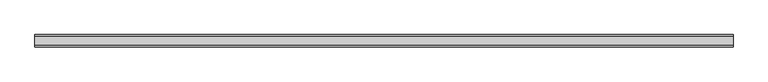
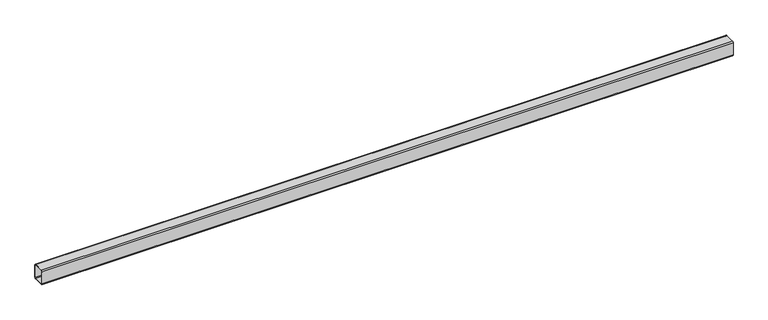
"""IFC4 building model written with IfcOpenShell, lengths in millimetres: beam geometry, Труба прямоугольного сечения (ТУ 67-2287-80) Балки : труба200x160x8."""

from ifc_helpers import new_model, si_unit, point, frame, frame_2d, origin, place, context, project, spatial, polyline, circle_curve, trimmed, segment, composite_curve, outline, extrude, source, transform, mapped, element, save


def beam_96b021a9(model_context):
    return source(origin(), model_context, "Body", "SweptSolid", [
        extrude(outline(composite_curve([segment(polyline([(-64.0, 100.0), (64.0, 100.0)]), True, "CONTINUOUS"), segment(trimmed(circle_curve(frame_2d((64.0, 84.0)), 16.0), [point((64.0, 100.0))], [point((80.0, 84.0))], False, "CARTESIAN"), True, "CONTINUOUS"), segment(polyline([(80.0, 84.0), (80.0, -84.0)]), True, "CONTINUOUS"), segment(trimmed(circle_curve(frame_2d((64.0, -84.0)), 16.0), [point((80.0, -84.0))], [point((64.0, -100.0))], False, "CARTESIAN"), True, "CONTINUOUS"), segment(polyline([(64.0, -100.0), (-64.0, -100.0)]), True, "CONTINUOUS"), segment(trimmed(circle_curve(frame_2d((-64.0, -84.0)), 16.0), [point((-64.0, -100.0))], [point((-80.0, -84.0))], False, "CARTESIAN"), True, "CONTINUOUS"), segment(polyline([(-80.0, -84.0), (-80.0, 84.0)]), True, "CONTINUOUS"), segment(trimmed(circle_curve(frame_2d((-64.0, 84.0)), 16.0), [point((-80.0, 84.0))], [point((-64.0, 100.0))], False, "CARTESIAN"), True, "CONTINUOUS")], self_intersect=False), holes=[composite_curve([segment(trimmed(circle_curve(frame_2d((-64.0, 84.0)), 8.0), [point((-64.0, 92.0))], [point((-72.0, 84.0))], True, "CARTESIAN"), True, "CONTINUOUS"), segment(polyline([(-72.0, 84.0), (-72.0, -84.0)]), True, "CONTINUOUS"), segment(trimmed(circle_curve(frame_2d((-64.0, -84.0)), 8.0), [point((-72.0, -84.0))], [point((-64.0, -92.0))], True, "CARTESIAN"), True, "CONTINUOUS"), segment(polyline([(-64.0, -92.0), (64.0, -92.0)]), True, "CONTINUOUS"), segment(trimmed(circle_curve(frame_2d((64.0, -84.0)), 8.0), [point((64.0, -92.0))], [point((72.0, -84.0))], True, "CARTESIAN"), True, "CONTINUOUS"), segment(polyline([(72.0, -84.0), (72.0, 84.0)]), True, "CONTINUOUS"), segment(trimmed(circle_curve(frame_2d((64.0, 84.0)), 8.0), [point((72.0, 84.0))], [point((64.0, 92.0))], True, "CARTESIAN"), True, "CONTINUOUS"), segment(polyline([(64.0, 92.0), (-64.0, 92.0)]), True, "CONTINUOUS")], self_intersect=False)]), frame((-4580.0, 0.0, 0.0), z_axis=(1.0, 0.0, 0.0), x_axis=(0.0, 1.0, 0.0)), (0.0, 0.0, 1.0), 9159.9713891),
    ])


if __name__ == "__main__":
    model = new_model("IFC4")
    model_context = context("Model", 3, world=origin())
    ifc_project = project(units=[si_unit("LENGTHUNIT", "METRE", prefix="MILLI")], contexts=[model_context])
    site = spatial("IfcSite", under=ifc_project)
    building = spatial("IfcBuilding", under=site)
    placement = place(None, origin())
    beam_shape = beam_96b021a9(model_context)
    element("IfcBeam", 1, ObjectType="Труба прямоугольного сечения (ТУ 67-2287-80) Балки : труба200x160x8", at=placement, inside=building, context=model_context, shape_type="MappedRepresentation", body=[
        mapped(beam_shape, transform((0.0, 0.0, 0.0), x_axis=(1.0, 0.0, 0.0), y_axis=(0.0, 1.0, 0.0), z_axis=(0.0, 0.0, 1.0))),
    ])
    save(model, "model.ifc")
